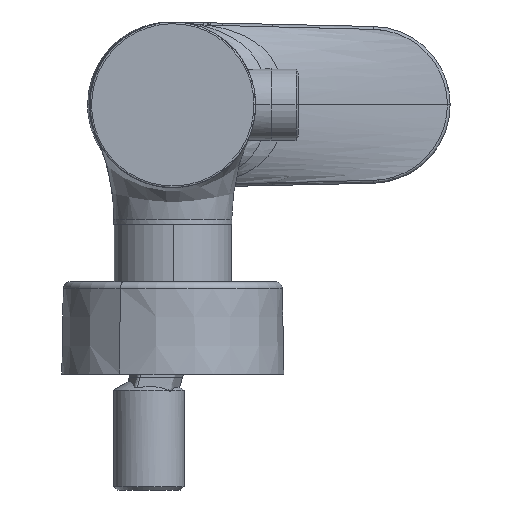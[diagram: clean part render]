
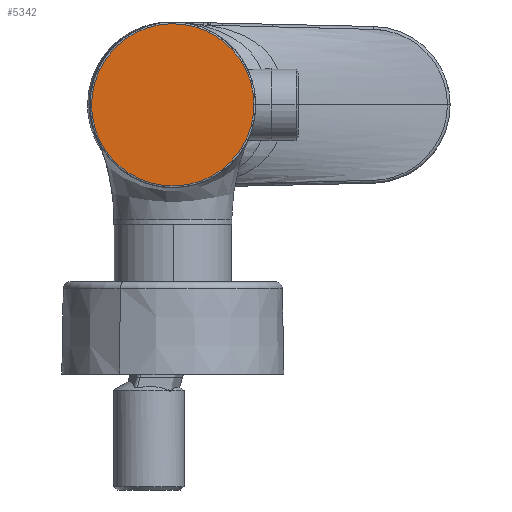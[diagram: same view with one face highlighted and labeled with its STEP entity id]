
A CAD part, left-side view. The second image highlights one B-rep face of the part: STEP entity #5342.
In plain terms, the highlighted planar face has unit normal (-1, 0, 0).
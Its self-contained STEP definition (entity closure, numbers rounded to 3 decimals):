
#1 = EDGE_CURVE ( 'NONE', #4525, #5733, #14357, .T. ) ;
#572 = ORIENTED_EDGE ( 'NONE', *, *, #13488, .F. ) ;
#645 = ORIENTED_EDGE ( 'NONE', *, *, #8840, .F. ) ;
#699 = CARTESIAN_POINT ( 'NONE',  ( -107.5, -23.479, 47.347 ) ) ;
#969 = DIRECTION ( 'NONE',  ( 1., 0., 0. ) ) ;
#999 = DIRECTION ( 'NONE',  ( 0., -0.003, -1. ) ) ;
#1237 = DIRECTION ( 'NONE',  ( 0., 0.003, 1. ) ) ;
#1720 = CARTESIAN_POINT ( 'NONE',  ( -107.5, -23.75, 0.136 ) ) ;
#1924 = FACE_OUTER_BOUND ( 'NONE', #13152, .T. ) ;
#2066 = CARTESIAN_POINT ( 'NONE',  ( -107.5, 0., 0. ) ) ;
#2399 = CARTESIAN_POINT ( 'NONE',  ( -107.5, 23.75, 0.009 ) ) ;
#3198 =( BOUNDED_CURVE ( )  B_SPLINE_CURVE ( 3, ( #3406, #7867, #8975, #3334 ),
 .UNSPECIFIED., .F., .T. ) 
 B_SPLINE_CURVE_WITH_KNOTS ( ( 4, 4 ),
 ( 0., 1. ),
 .UNSPECIFIED. ) 
 CURVE ( )  GEOMETRIC_REPRESENTATION_ITEM ( )  RATIONAL_B_SPLINE_CURVE ( ( 1., 0.335, 0.335, 1. ) ) 
 REPRESENTATION_ITEM ( '' )  );
#3334 = CARTESIAN_POINT ( 'NONE',  ( -107.5, 23.75, -0.136 ) ) ;
#3406 = CARTESIAN_POINT ( 'NONE',  ( -107.5, -23.75, -0.009 ) ) ;
#3573 = LINE ( 'NONE', #2399, #13615 ) ;
#4525 = VERTEX_POINT ( 'NONE', #9344 ) ;
#4885 = CARTESIAN_POINT ( 'NONE',  ( -107.5, -23.75, -0.009 ) ) ;
#5342 = ADVANCED_FACE ( 'NONE', ( #1924 ), #11013, .F. ) ;
#5540 = CARTESIAN_POINT ( 'NONE',  ( -107.5, -23.75, -0.009 ) ) ;
#5733 = VERTEX_POINT ( 'NONE', #4885 ) ;
#6053 = AXIS2_PLACEMENT_3D ( 'NONE', #2066, #969, #10869 ) ;
#6130 = VERTEX_POINT ( 'NONE', #13382 ) ;
#6146 = EDGE_CURVE ( 'NONE', #5733, #6130, #3198, .T. ) ;
#7867 = CARTESIAN_POINT ( 'NONE',  ( -107.5, -23.733, -47.22 ) ) ;
#8356 = CARTESIAN_POINT ( 'NONE',  ( -107.5, 23.75, 0.009 ) ) ;
#8381 = CARTESIAN_POINT ( 'NONE',  ( -107.5, 23.75, 0.009 ) ) ;
#8840 = EDGE_CURVE ( 'NONE', #6130, #10905, #3573, .T. ) ;
#8975 = CARTESIAN_POINT ( 'NONE',  ( -107.5, 23.479, -47.347 ) ) ;
#9344 = CARTESIAN_POINT ( 'NONE',  ( -107.5, -23.75, 0.136 ) ) ;
#9538 =( BOUNDED_CURVE ( )  B_SPLINE_CURVE ( 3, ( #8381, #11843, #699, #1720 ),
 .UNSPECIFIED., .F., .T. ) 
 B_SPLINE_CURVE_WITH_KNOTS ( ( 4, 4 ),
 ( 0., 1. ),
 .UNSPECIFIED. ) 
 CURVE ( )  GEOMETRIC_REPRESENTATION_ITEM ( )  RATIONAL_B_SPLINE_CURVE ( ( 1., 0.335, 0.335, 1. ) ) 
 REPRESENTATION_ITEM ( '' )  );
#9713 = VECTOR ( 'NONE', #999, 1000. ) ;
#9769 = ORIENTED_EDGE ( 'NONE', *, *, #1, .F. ) ;
#10869 = DIRECTION ( 'NONE',  ( 0., 0., -1. ) ) ;
#10905 = VERTEX_POINT ( 'NONE', #8356 ) ;
#11013 = PLANE ( 'NONE',  #6053 ) ;
#11568 = ORIENTED_EDGE ( 'NONE', *, *, #6146, .F. ) ;
#11843 = CARTESIAN_POINT ( 'NONE',  ( -107.5, 23.733, 47.22 ) ) ;
#13152 = EDGE_LOOP ( 'NONE', ( #572, #645, #11568, #9769 ) ) ;
#13382 = CARTESIAN_POINT ( 'NONE',  ( -107.5, 23.75, -0.136 ) ) ;
#13488 = EDGE_CURVE ( 'NONE', #10905, #4525, #9538, .T. ) ;
#13615 = VECTOR ( 'NONE', #1237, 1000. ) ;
#14357 = LINE ( 'NONE', #5540, #9713 ) ;
